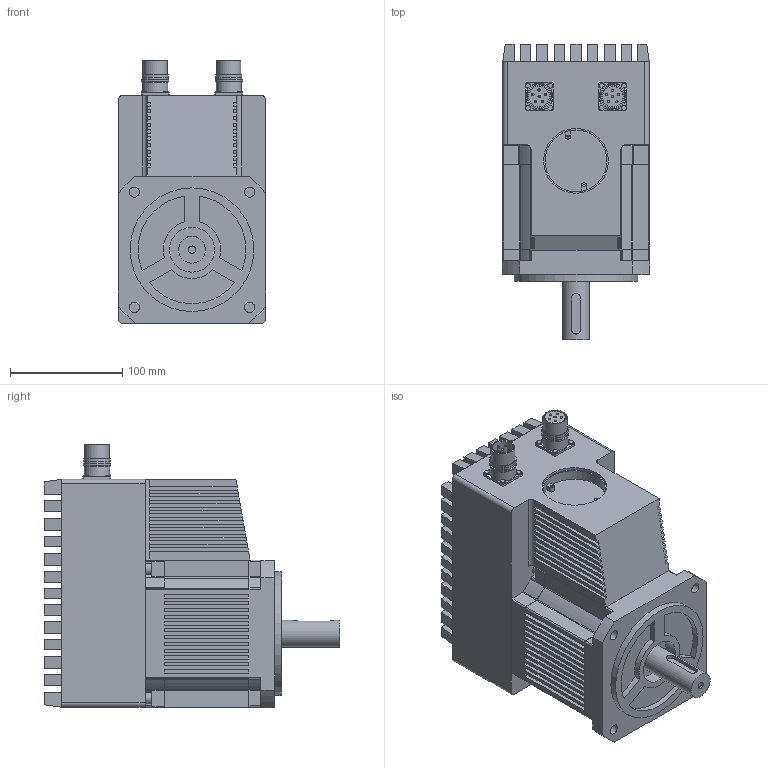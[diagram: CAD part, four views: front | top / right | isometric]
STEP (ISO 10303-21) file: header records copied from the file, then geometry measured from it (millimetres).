
FILE_DESCRIPTION( ( 'Unknown' ), '1' );
FILE_NAME( 'H:/MAC1500/Oversigt tegninger/MAC1500D1/MAC1500-D1.stp', 'Unknown', ( 'Unknown' ), ( 'Unknown' ), 'PSStep 11.0', 'Unknown', ' ' );
FILE_SCHEMA( ( 'AUTOMOTIVE_DESIGN { 1 0 10303 214 1 1 1 1 }' ) );
Length unit declared in the file: millimetre
Products named in the file (1): 1
Bounding box: 131 x 262.8 x 233.7 mm (x, y, z)
Volume: 4309949 mm3; surface area: 321649 mm2
Topology: 1 solids, 20 shells, 1226 faces, 2932 edges, 1946 vertices
Faces by surface type: plane 1056, cylinder 162, sphere 6, torus 2
Full cylindrical faces by diameter (mm): 2 x12, 2.013 x2, 2.459 x12, 3.2 x8, 4.4 x8, 6.647 x2, 7.2 x4, 8 x1, 9 x4, 9.78 x4, 15 x1, 18.3 x2, 20 x2, 21.6 x2, 22.5 x1, 22.6 x2, 22.9 x2, 23.3 x2, 24 x1, 24.5 x2, 40 x1, 55.1 x1, 57.6 x1, 59.7 x1, 110 x1
Entity records: 44127 total; most frequent: CARTESIAN_POINT 6002, ORIENTED_EDGE 5608, DIRECTION 5595, EDGE_CURVE 2804, LINE 2463, VECTOR 2463, VERTEX_POINT 1905, AXIS2_PLACEMENT_3D 1566
